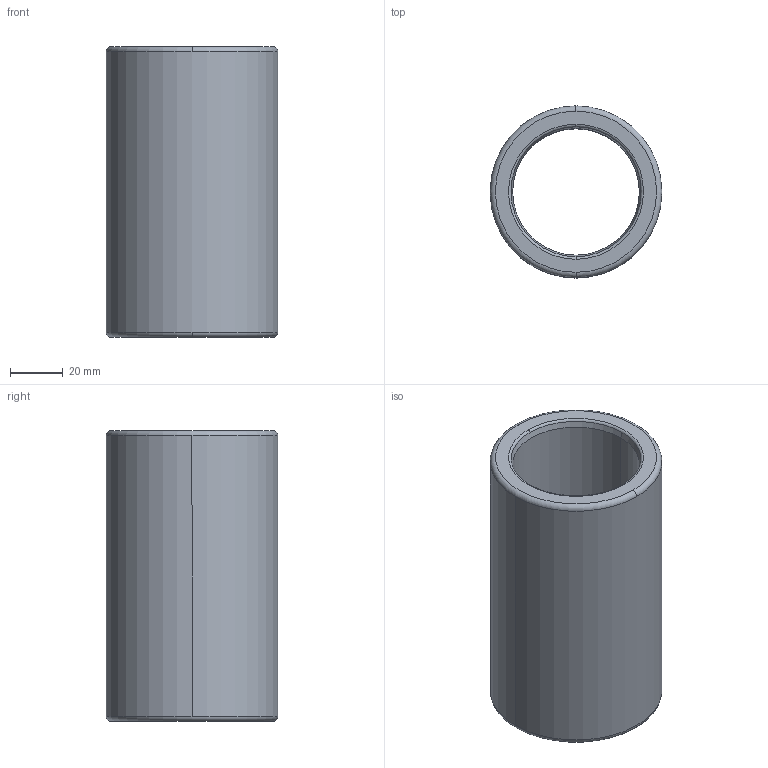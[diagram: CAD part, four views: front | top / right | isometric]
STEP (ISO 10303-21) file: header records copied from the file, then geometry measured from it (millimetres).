
FILE_DESCRIPTION((''),'2;1');
FILE_NAME('B30_040_110.stp','2009-01-12T10:50:12',(''),(''),'Mechanical Desktop 2009','Mechanical Desktop 2009',', , ');
FILE_SCHEMA(('CONFIG_CONTROL_DESIGN'));
Length unit declared in the file: millimetre
Products named in the file (2): Product; blmdl1
Assembly tree (1 placements, depth 2):
  Product
    blmdl1
Bounding box: 64.99 x 64.99 x 110 mm (x, y, z)
Volume: 165380.2 mm3; surface area: 41428.2 mm2
Topology: 1 solids, 1 shells, 18 faces, 48 edges, 32 vertices
Faces by surface type: torus 8, cylinder 4, cone 4, plane 2
Entity records: 705 total; most frequent: DIRECTION 128, CARTESIAN_POINT 100, ORIENTED_EDGE 96, AXIS2_PLACEMENT_3D 60, EDGE_CURVE 48, CIRCLE 40, VERTEX_POINT 32, EDGE_LOOP 20
